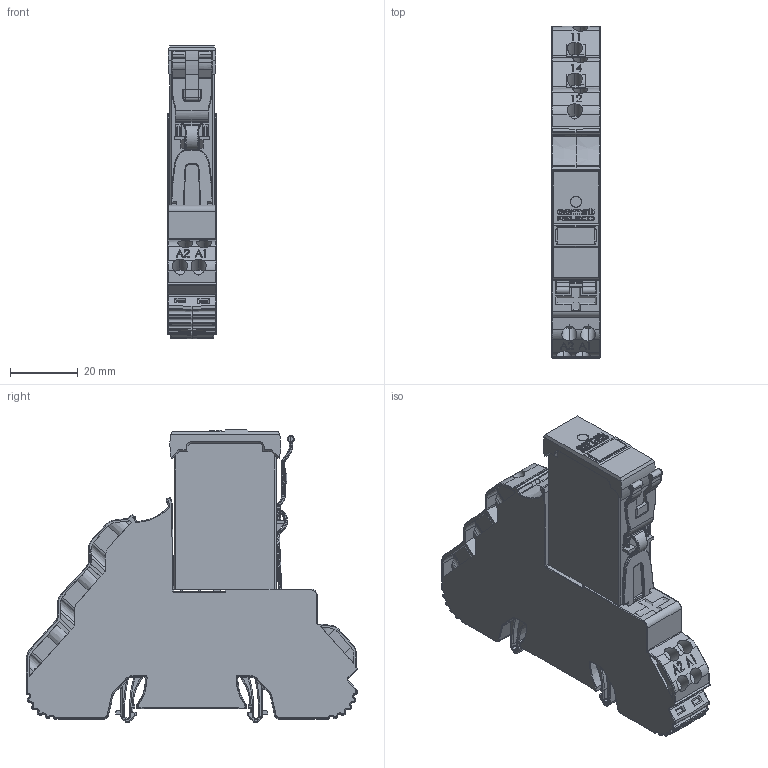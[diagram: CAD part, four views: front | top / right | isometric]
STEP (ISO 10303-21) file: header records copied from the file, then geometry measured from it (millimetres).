
FILE_DESCRIPTION (( 'STEP AP214' ), '1' );
FILE_NAME ('S10-PI+CSS.STEP', '2020-11-19T14:29:01', ( '' ), ( '' ), 'SwSTEP 2.0', 'SolidWorks 2016', '' );
FILE_SCHEMA (( 'AUTOMOTIVE_DESIGN' ));
Length unit declared in the file: millimetre
Products named in the file (1): S10-PI+CSS
Bounding box: 14.4 x 97.67 x 86.41 mm (x, y, z)
Volume: 69296.4 mm3; surface area: 21700.7 mm2
Topology: 3 solids, 3 shells, 2551 faces, 6332 edges, 3877 vertices
Faces by surface type: plane 1097, bspline 699, cylinder 523, cone 108, torus 90, sphere 34
Entity records: 120245 total; most frequent: CARTESIAN_POINT 38211, ORIENTED_EDGE 12652, DIRECTION 9138, EDGE_CURVE 6326, VERTEX_POINT 3875, LINE 3450, VECTOR 3450, AXIS2_PLACEMENT_3D 2844
